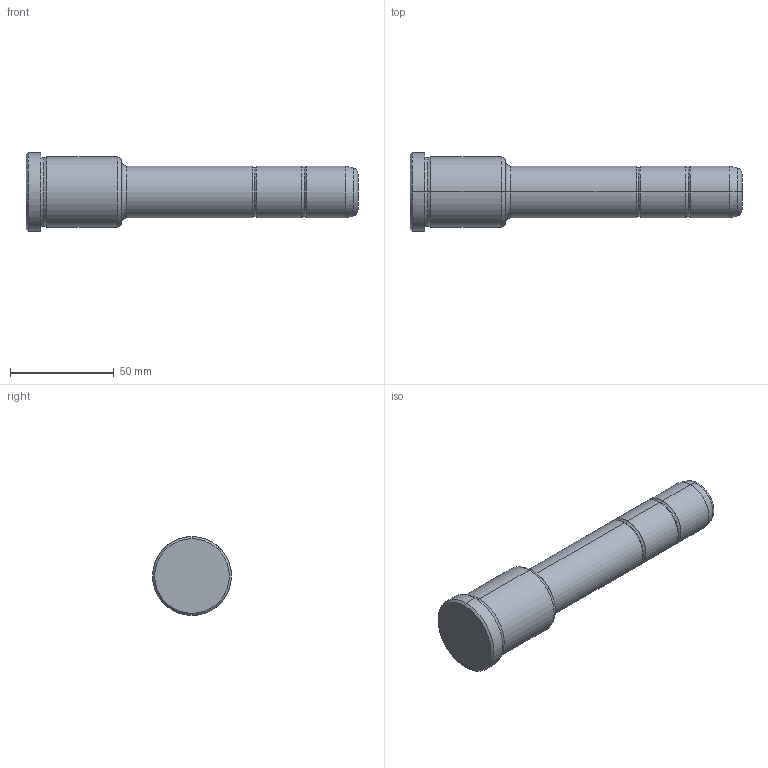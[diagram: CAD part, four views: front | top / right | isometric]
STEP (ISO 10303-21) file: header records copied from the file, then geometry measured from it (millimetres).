
FILE_DESCRIPTION(('CATIA V5 STEP Exchange'),'2;1');
FILE_NAME('C:\Users\Utente\Desktop\IO LAVORO\3D X SITO CF\X SITO\PLASTICA\351\351-25X46X160.stp','2021-08-28T07:36:03+00:00',('none'),('none'),'CATIA Version 5 Release 20 GA (IN-10)','CATIA V5 STEP AP203','none');
FILE_SCHEMA(('CONFIG_CONTROL_DESIGN'));
Length unit declared in the file: millimetre
Products named in the file (1): 351-25X46X160
Bounding box: 160 x 38 x 38 mm (x, y, z)
Volume: 98518.3 mm3; surface area: 15913.2 mm2
Topology: 1 solids, 1 shells, 36 faces, 102 edges, 70 vertices
Faces by surface type: torus 16, cylinder 10, cone 6, plane 4
Entity records: 1292 total; most frequent: CARTESIAN_POINT 321, ORIENTED_EDGE 204, DIRECTION 166, AXIS2_PLACEMENT_3D 115, EDGE_CURVE 102, CIRCLE 78, VERTEX_POINT 70, EDGE_LOOP 38
